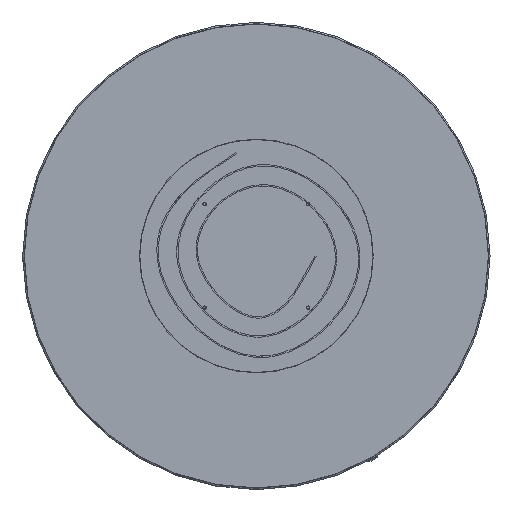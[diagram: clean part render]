
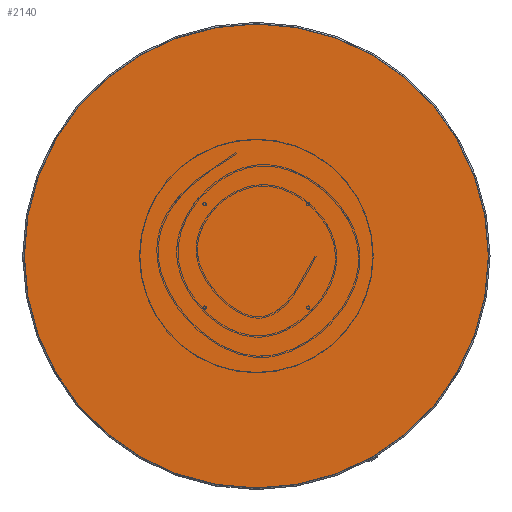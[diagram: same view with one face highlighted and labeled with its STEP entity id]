
A CAD part, top view. The second image highlights one B-rep face of the part: STEP entity #2140.
In plain terms, the highlighted planar face has unit normal (0, 0, 1).
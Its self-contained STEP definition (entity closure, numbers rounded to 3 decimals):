
#2140=ADVANCED_FACE('',(#5633),#5634,.T.);
#5633=FACE_OUTER_BOUND('',#12817,.T.);
#5634=PLANE('',#12818);
#12817=EDGE_LOOP('',(#131531));
#12818=AXIS2_PLACEMENT_3D('',#131532,#131533,#131534);
#131531=ORIENTED_EDGE('',*,*,#159158,.T.);
#131532=CARTESIAN_POINT('',(0.0,0.0,0.0));
#131533=DIRECTION('',(0.0,0.0,1.0));
#131534=DIRECTION('',(1.0,0.0,0.0));
#159158=EDGE_CURVE('',#166976,#166976,#166977,.T.);
#166976=VERTEX_POINT('',#179939);
#166977=CIRCLE('',#179940,347.5);
#179939=CARTESIAN_POINT('',(347.5,0.0,0.0));
#179940=AXIS2_PLACEMENT_3D('',#230989,#230990,#230991);
#230989=CARTESIAN_POINT('',(0.0,0.0,0.0));
#230990=DIRECTION('',(0.0,0.0,1.0));
#230991=DIRECTION('',(1.0,0.0,0.0));
